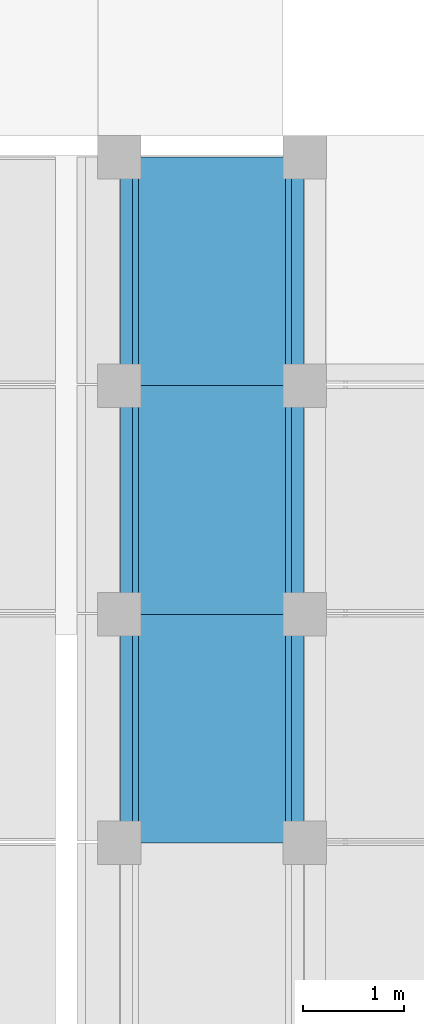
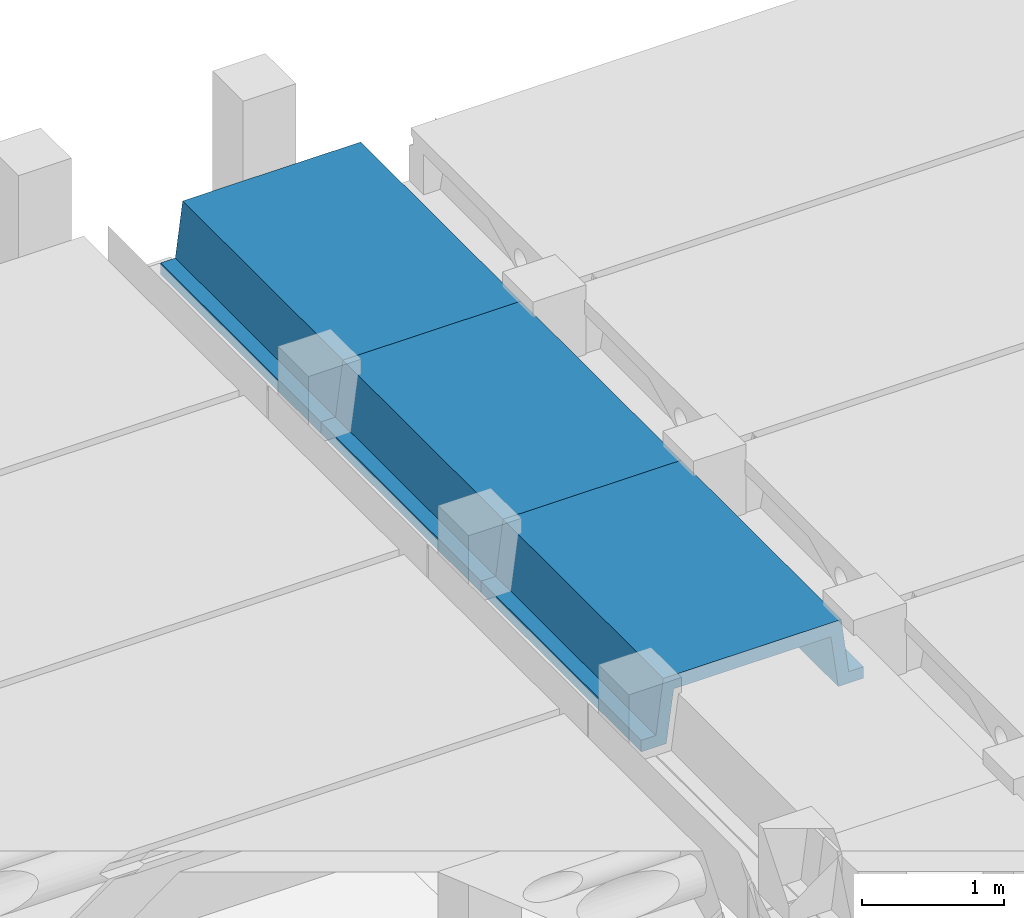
# One storey, part 20 of 25: 3 beams.
"""IFC2X3 building model written with IfcOpenShell, lengths in millimetres."""

from ifc_helpers import new_model, entity, si_unit, converted_unit, derived_unit, direction, frame, origin, place, context, subcontext, project, spatial, polyline, outline, extrude, material, type_object, element, save


model = new_model("IFC2X3")

# Units and contexts
model_context = context("Model", 3, precision=0.01, world=origin(), true_north=direction((6.12303176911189e-17, 1.0)))
body_context = subcontext(model_context, "Body", "Model", "MODEL_VIEW")
ifc_project = project(units=[si_unit("LENGTHUNIT", "METRE", prefix="MILLI"), si_unit("AREAUNIT", "SQUARE_METRE"), si_unit("VOLUMEUNIT", "CUBIC_METRE"), converted_unit("PLANEANGLEUNIT", "DEGREE", entity("IfcRatioMeasure", 0.0174532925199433), si_unit("PLANEANGLEUNIT", "RADIAN"), dimensions=[0, 0, 0, 0, 0, 0, 0]), si_unit("MASSUNIT", "GRAM", prefix="KILO"), derived_unit("MASSDENSITYUNIT", [(si_unit("MASSUNIT", "GRAM", prefix="KILO"), 1), (si_unit("LENGTHUNIT", "METRE"), -3)]), derived_unit("MOMENTOFINERTIAUNIT", [(si_unit("LENGTHUNIT", "METRE"), 4)]), si_unit("TIMEUNIT", "SECOND"), si_unit("FREQUENCYUNIT", "HERTZ"), si_unit("THERMODYNAMICTEMPERATUREUNIT", "DEGREE_CELSIUS"), derived_unit("THERMALTRANSMITTANCEUNIT", [(si_unit("MASSUNIT", "GRAM", prefix="KILO"), 1), (si_unit("THERMODYNAMICTEMPERATUREUNIT", "KELVIN"), -1), (si_unit("TIMEUNIT", "SECOND"), -3)]), derived_unit("VOLUMETRICFLOWRATEUNIT", [(si_unit("LENGTHUNIT", "METRE"), 3), (si_unit("TIMEUNIT", "SECOND"), -1)]), si_unit("ELECTRICCURRENTUNIT", "AMPERE"), si_unit("ELECTRICVOLTAGEUNIT", "VOLT"), si_unit("POWERUNIT", "WATT"), si_unit("FORCEUNIT", "NEWTON", prefix="KILO"), si_unit("ILLUMINANCEUNIT", "LUX"), si_unit("LUMINOUSFLUXUNIT", "LUMEN"), si_unit("LUMINOUSINTENSITYUNIT", "CANDELA"), derived_unit("USERDEFINED", [(si_unit("MASSUNIT", "GRAM", prefix="KILO"), -1), (si_unit("LENGTHUNIT", "METRE"), -2), (si_unit("TIMEUNIT", "SECOND"), 3), (si_unit("LUMINOUSFLUXUNIT", "LUMEN"), 1)]), derived_unit("LINEARVELOCITYUNIT", [(si_unit("LENGTHUNIT", "METRE"), 1), (si_unit("TIMEUNIT", "SECOND"), -1)]), si_unit("PRESSUREUNIT", "PASCAL"), derived_unit("USERDEFINED", [(si_unit("LENGTHUNIT", "METRE"), -2), (si_unit("MASSUNIT", "GRAM", prefix="KILO"), 1), (si_unit("TIMEUNIT", "SECOND"), -2)]), derived_unit("LINEARFORCEUNIT", [(si_unit("MASSUNIT", "GRAM", prefix="KILO"), 1), (si_unit("LENGTHUNIT", "METRE"), 1), (si_unit("TIMEUNIT", "SECOND"), -2), (si_unit("LENGTHUNIT", "METRE"), -1)]), derived_unit("PLANARFORCEUNIT", [(si_unit("MASSUNIT", "GRAM", prefix="KILO"), 1), (si_unit("LENGTHUNIT", "METRE"), 1), (si_unit("TIMEUNIT", "SECOND"), -2), (si_unit("LENGTHUNIT", "METRE"), -2)])], contexts=[model_context])

# Site, building, storey
site_placement = place(None, frame((10627.5135316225, 21939.0796949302, 0.0)))
site = spatial("IfcSite", under=ifc_project, at=site_placement, Name="Default", CompositionType="ELEMENT")
building_placement = place(site_placement, origin())
building = spatial("IfcBuilding", under=site, at=building_placement, CompositionType="ELEMENT")
storey_placement = place(building_placement, origin())
storey = spatial("IfcBuildingStorey", under=building, at=storey_placement, Name="RDC", CompositionType="ELEMENT", Elevation=0.0)

# Beams
ifc_material = material(Name="Concrete, Precast Smooth, Light Grey")
beam_type = type_object("IfcBeamType", Name="Poutre petite:Poutre petite", PredefinedType="NOTDEFINED")
beam_1_placement = place(storey_placement, frame((667.48646837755, 14220.9203050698, 3530.0), z_axis=(0.0, 0.0, 1.0), x_axis=(0.0, 1.0, 0.0)))
element("IfcBeam", 1, at=beam_1_placement, inside=storey, type_object=beam_type, material=ifc_material, Name="Poutre petite:Poutre petite", ObjectType="Poutre petite:Poutre petite", context=body_context, shape_type="SweptSolid", body=[
    extrude(outline(polyline([(103.333217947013, -905.013684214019), (203.333564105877, -905.013684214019), (203.333564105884, -700.013730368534), (-246.666782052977, -640.013684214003), (-246.666782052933, 640.013497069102), (203.333564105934, 700.013543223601), (203.333564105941, 905.014058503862), (103.333217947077, 905.014058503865), (103.333217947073, 785.01349706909), (-366.666782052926, 725.013497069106), (-366.666782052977, -725.013684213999), (103.333217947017, -785.013684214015), (103.333217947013, -905.013684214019)])), frame((0.0, -0.000187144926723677, -366.666782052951), z_axis=(1.0, 0.0, 0.0), x_axis=(0.0, 0.0, -1.0)), (0.0, 0.0, 1.0), 2260.0),
])
beam_2_placement = place(storey_placement, frame((667.486468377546, 11960.9203050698, 3530.0), z_axis=(0.0, 0.0, 1.0), x_axis=(0.0, 1.0, 0.0)))
element("IfcBeam", 2, at=beam_2_placement, inside=storey, type_object=beam_type, material=ifc_material, Name="Poutre petite:Poutre petite", ObjectType="Poutre petite:Poutre petite", context=body_context, shape_type="SweptSolid", body=[
    extrude(outline(polyline([(103.333217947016, -905.013684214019), (203.33356410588, -905.013684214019), (203.333564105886, -700.013730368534), (-246.666782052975, -640.013684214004), (-246.666782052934, 640.013497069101), (203.333564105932, 700.013543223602), (203.333564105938, 905.014058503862), (103.333217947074, 905.014058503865), (103.33321794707, 785.01349706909), (-366.666782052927, 725.013497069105), (-366.666782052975, -725.013684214), (103.333217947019, -785.013684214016), (103.333217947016, -905.013684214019)])), frame((0.0, -0.000187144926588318, -366.666782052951), z_axis=(1.0, 0.0, 0.0), x_axis=(0.0, 0.0, -1.0)), (0.0, 0.0, 1.0), 2260.0),
])
beam_3_placement = place(storey_placement, frame((667.48646837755, 9700.92030506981, 3530.0), z_axis=(0.0, 0.0, 1.0), x_axis=(0.0, 1.0, 0.0)))
element("IfcBeam", 3, at=beam_3_placement, inside=storey, type_object=beam_type, material=ifc_material, Name="Poutre petite:Poutre petite", ObjectType="Poutre petite:Poutre petite", context=body_context, shape_type="SweptSolid", body=[
    extrude(outline(polyline([(103.333217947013, -905.013684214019), (203.333564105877, -905.013684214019), (203.333564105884, -700.013730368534), (-246.666782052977, -640.013684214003), (-246.666782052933, 640.013497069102), (203.333564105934, 700.013543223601), (203.333564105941, 905.014058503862), (103.333217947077, 905.014058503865), (103.333217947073, 785.01349706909), (-366.666782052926, 725.013497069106), (-366.666782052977, -725.013684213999), (103.333217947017, -785.013684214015), (103.333217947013, -905.013684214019)])), frame((0.0, -0.000187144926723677, -366.666782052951), z_axis=(1.0, 0.0, 0.0), x_axis=(0.0, 0.0, -1.0)), (0.0, 0.0, 1.0), 2260.0),
])

save(model, "model.ifc")
